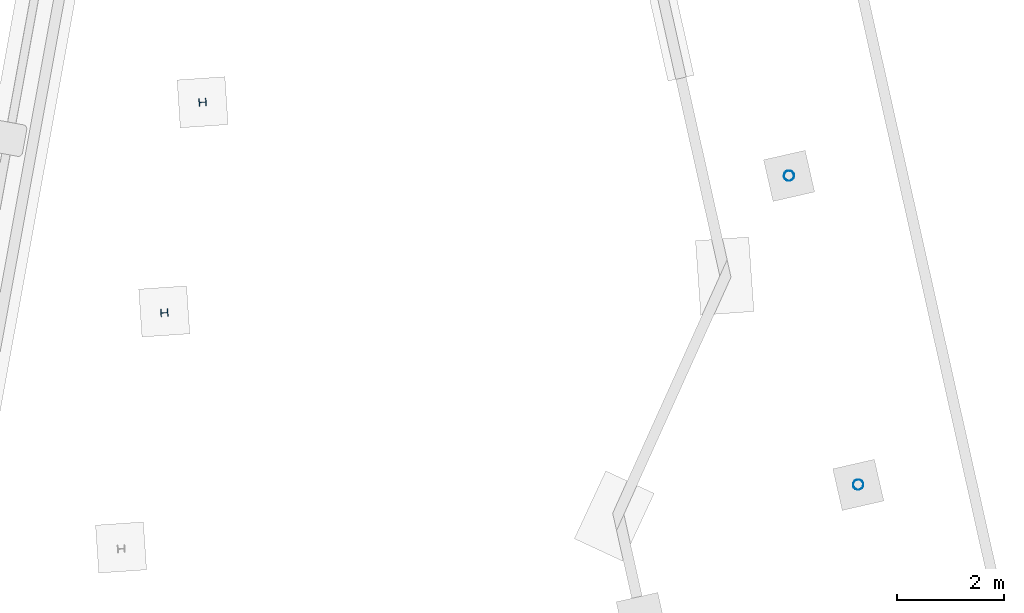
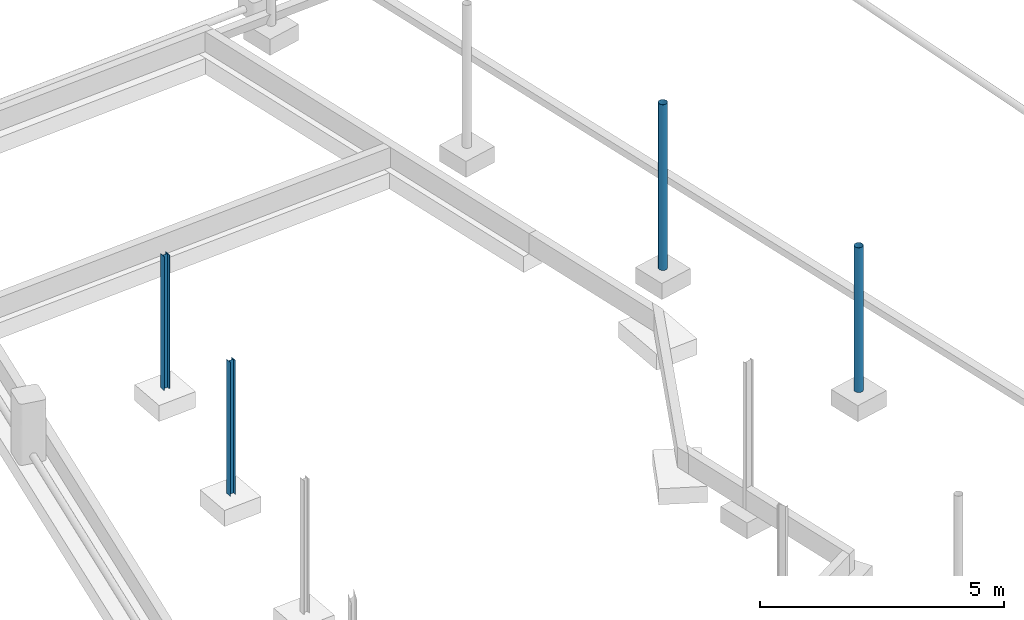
# One storey, part 4 of 17: 4 columns.
"""IFC2X3 building model written with IfcOpenShell, lengths in centimetres."""

import ifcopenshell
import ifcopenshell.guid

model = None  # the IFC model being written
_history = None  # IfcOwnerHistory: only IFC2X3 demands one
_inside = {}  # id of a spatial element -> (the spatial element, [elements in it])
_under = {}  # id of a project, library or spatial element -> (it, [spatial elements below it])
_declared = {}  # id of a project -> (the project, [libraries it declares])
_typed = {}  # id of a type object -> (the type object, [elements of that type])
_made_of = {}  # id of a material, layer set ... -> (it, [elements and type objects made of it])


def new_model(schema):
    """Start an empty IFC model of exactly this schema.

    Asked for "IFC4X3", IfcOpenShell would pick the latest addendum, in which some entities
    have other attributes; the version numbers below select the first issue.
    IFC2X3 requires an IfcOwnerHistory on every rooted entity: one is made here for all.
    """
    global model, _history
    if schema == "IFC4X3":
        model = ifcopenshell.file(schema_version=(4, 3, 0, 0))
    else:
        model = ifcopenshell.file(schema=schema)
    _inside.clear()
    _under.clear()
    _declared.clear()
    _typed.clear()
    _made_of.clear()
    _history = None
    if model.schema == "IFC2X3":
        org = make("IfcOrganization", Name="unknown")
        user = make(
            "IfcPersonAndOrganization",
            ThePerson=make("IfcPerson", FamilyName="unknown"),
            TheOrganization=org,
        )
        app = make(
            "IfcApplication",
            ApplicationDeveloper=org,
            Version="unknown",
            ApplicationFullName="unknown",
            ApplicationIdentifier="unknown",
        )
        _history = make(
            "IfcOwnerHistory",
            OwningUser=user,
            OwningApplication=app,
            ChangeAction="ADDED",
            CreationDate=0,
        )
    return model


def make(cls, **values):
    """One entity of the class cls with the attributes given. An attribute that is None is left unset."""
    return model.create_entity(
        cls, **{name: value for name, value in values.items() if value is not None}
    )


def entity(cls, *values):
    """Any entity or typed value of the class cls, its attributes in the order of the schema. None: left unset."""
    e = model.create_entity(cls)
    for i, value in enumerate(values):
        if value is not None:
            e[i] = value
    return e


def rooted(cls, **values):
    """An entity with a GlobalId (a new one), such as an element, a storey or a relation."""
    return make(cls, GlobalId=ifcopenshell.guid.new(), OwnerHistory=_history, **values)


def si_unit(unit_type, name, prefix=None):
    """IfcSIUnit, for example si_unit("LENGTHUNIT", "METRE", prefix="MILLI")."""
    return make("IfcSIUnit", UnitType=unit_type, Prefix=prefix, Name=name)


def converted_unit(unit_type, name, factor, base, dimensions=None, offset=None):
    """IfcConversionBasedUnit, such as the inch: factor (a typed value) times the base unit."""
    return make(
        "IfcConversionBasedUnit"
        if offset is None
        else "IfcConversionBasedUnitWithOffset",
        ConversionOffset=offset,
        Dimensions=None
        if dimensions is None
        else entity("IfcDimensionalExponents", *dimensions),
        UnitType=unit_type,
        Name=name,
        ConversionFactor=make(
            "IfcMeasureWithUnit", ValueComponent=factor, UnitComponent=base
        ),
    )


def derived_unit(unit_type, elements):
    """IfcDerivedUnit: a product of units, each with its exponent."""
    return make(
        "IfcDerivedUnit",
        Elements=[
            make("IfcDerivedUnitElement", Unit=unit, Exponent=power)
            for unit, power in elements
        ],
        UnitType=unit_type,
    )


def assignment(units):
    """IfcUnitAssignment: the units of a project."""
    return None if units is None else make("IfcUnitAssignment", Units=units)


def point(xyz):
    """IfcCartesianPoint."""
    return None if xyz is None else make("IfcCartesianPoint", Coordinates=xyz)


def direction(xyz):
    """IfcDirection."""
    return None if xyz is None else make("IfcDirection", DirectionRatios=xyz)


def frame(location, z_axis=None, x_axis=None):
    """IfcAxis2Placement3D, a coordinate frame: its origin and axes. An axis left out is left unset."""
    return make(
        "IfcAxis2Placement3D",
        Location=point(location),
        Axis=direction(z_axis),
        RefDirection=direction(x_axis),
    )


def frame_2d(location, x_axis=None):
    """IfcAxis2Placement2D, a coordinate frame in the plane: its origin and x axis."""
    return make(
        "IfcAxis2Placement2D", Location=point(location), RefDirection=direction(x_axis)
    )


def origin():
    """The frame at (0, 0, 0) with its axes left unset."""
    return frame((0.0, 0.0, 0.0))


def place(relative_to, where):
    """IfcLocalPlacement: puts the frame where relative to a parent placement (None: the world)."""
    return make(
        "IfcLocalPlacement", PlacementRelTo=relative_to, RelativePlacement=where
    )


def context(
    kind, dimensions, precision=None, world=None, true_north=None, identifier=None
):
    """IfcGeometricRepresentationContext, for example the 3D "Model" context."""
    return make(
        "IfcGeometricRepresentationContext",
        ContextIdentifier=identifier,
        ContextType=kind,
        CoordinateSpaceDimension=dimensions,
        Precision=precision,
        WorldCoordinateSystem=world,
        TrueNorth=true_north,
    )


def subcontext(parent, identifier, kind, view, scale=None):
    """IfcGeometricRepresentationSubContext, for example "Body" below "Model"."""
    return make(
        "IfcGeometricRepresentationSubContext",
        ContextIdentifier=identifier,
        ContextType=kind,
        ParentContext=parent,
        TargetScale=scale,
        TargetView=view,
    )


def project(units=None, contexts=None):
    """IfcProject with its units and contexts."""
    return rooted(
        "IfcProject",
        Name="project",
        RepresentationContexts=contexts,
        UnitsInContext=assignment(units),
    )


def spatial(cls, under=None, at=None, **own):
    """A site, building, storey or space (cls), placed at a placement, below another one or the project."""
    s = rooted(cls, ObjectPlacement=at, **own)
    if under is not None:
        _under.setdefault(under.id(), (under, []))[1].append(s)
    return s


def polyline(points):
    """IfcPolyline through the points."""
    return make("IfcPolyline", Points=[point(p) for p in points])


def circle_curve(where, radius):
    """IfcCircle in the frame where."""
    return make("IfcCircle", Position=where, Radius=radius)


def parameter(value):
    """IfcParameterValue: where a trimmed curve begins or ends, as a parameter of its basis curve."""
    return model.create_entity("IfcParameterValue", value)


def trimmed(basis, trim1, trim2, sense, master):
    """IfcTrimmedCurve: the piece of a basis curve between two trims."""
    return make(
        "IfcTrimmedCurve",
        BasisCurve=basis,
        Trim1=trim1,
        Trim2=trim2,
        SenseAgreement=sense,
        MasterRepresentation=master,
    )


def segment(curve, same_sense, transition):
    """IfcCompositeCurveSegment."""
    return make(
        "IfcCompositeCurveSegment",
        Transition=transition,
        SameSense=same_sense,
        ParentCurve=curve,
    )


def composite_curve(segments, self_intersect=None):
    """IfcCompositeCurve: segments joined end to end."""
    return make("IfcCompositeCurve", Segments=segments, SelfIntersect=self_intersect)


def profile(cls, at=None, kind="AREA", **sizes):
    """A parametric profile (cls). Its sizes go by their IFC names, for example OverallWidth=200.0."""
    return make(cls, ProfileType=kind, Position=at, **sizes)


def hollow_circle(**sizes):
    """IfcCircleHollowProfileDef."""
    return profile("IfcCircleHollowProfileDef", **sizes)


def outline(outer, holes=None, kind="AREA"):
    """IfcArbitraryClosedProfileDef: a profile drawn as a closed curve; with holes, ...WithVoids."""
    if holes is None:
        return make("IfcArbitraryClosedProfileDef", ProfileType=kind, OuterCurve=outer)
    return make(
        "IfcArbitraryProfileDefWithVoids",
        ProfileType=kind,
        OuterCurve=outer,
        InnerCurves=holes,
    )


def extrude(swept, where, along, depth):
    """IfcExtrudedAreaSolid: the profile swept, set in the frame where, extruded along a direction by depth."""
    return make(
        "IfcExtrudedAreaSolid",
        SweptArea=swept,
        Position=where,
        ExtrudedDirection=direction(along),
        Depth=depth,
    )


def shape(context_of_items, identifier, shape_type, items):
    """IfcShapeRepresentation: the items that make up one representation, for example the "Body"."""
    return make(
        "IfcShapeRepresentation",
        ContextOfItems=context_of_items,
        RepresentationIdentifier=identifier,
        RepresentationType=shape_type,
        Items=items,
    )


def source(mapping_origin, context_of_items, identifier, shape_type, items):
    """IfcRepresentationMap: a shape defined once, which mapped items show again and again."""
    return make(
        "IfcRepresentationMap",
        MappingOrigin=mapping_origin,
        MappedRepresentation=shape(context_of_items, identifier, shape_type, items),
    )


def transform(
    local_origin,
    x_axis=None,
    y_axis=None,
    z_axis=None,
    scale=None,
    scale2=None,
    scale3=None,
    uniform=True,
):
    """IfcCartesianTransformationOperator3D, or its non-uniform kind. x_axis, y_axis, z_axis: its Axis1, 2, 3."""
    if uniform:
        return make(
            "IfcCartesianTransformationOperator3D",
            Axis1=direction(x_axis),
            Axis2=direction(y_axis),
            LocalOrigin=point(local_origin),
            Scale=scale,
            Axis3=direction(z_axis),
        )
    return make(
        "IfcCartesianTransformationOperator3DnonUniform",
        Axis1=direction(x_axis),
        Axis2=direction(y_axis),
        LocalOrigin=point(local_origin),
        Scale=scale,
        Axis3=direction(z_axis),
        Scale2=scale2,
        Scale3=scale3,
    )


def mapped(mapping_source, mapping_target):
    """IfcMappedItem: shows the shape of a source again, moved by a transform."""
    return make(
        "IfcMappedItem", MappingSource=mapping_source, MappingTarget=mapping_target
    )


def material(Name=None, Category=None):
    """IfcMaterial."""
    return make("IfcMaterial", Name=Name, Category=Category)


def made_of(thing, what):
    """Note that an element or type object is made of a material, layer set ...; save() writes the relation."""
    if what is not None:
        _made_of.setdefault(what.id(), (what, []))[1].append(thing)
    return thing


def type_object(cls, material=None, **own):
    """A type object (cls), such as IfcWallType, which elements share."""
    return made_of(rooted(cls, **own), material)


def type_shapes(of_type, sources):
    """Give a type object the sources (RepresentationMaps) that its elements show as mapped items."""
    of_type.RepresentationMaps = sources


def element(
    cls,
    number,
    at=None,
    inside=None,
    cuts=None,
    type_object=None,
    material=None,
    context=None,
    identifier="Body",
    shape_type=None,
    held_by="IfcProductDefinitionShape",
    body=None,
    shapes=None,
    **own,
):
    """One element of the class cls, such as IfcWall. Its Tag is "e" and its number.

    at: its placement. inside: the storey or other place that contains it. cuts: it is an
    opening in that element (IfcRelVoidsElement). A single representation is given by context,
    identifier, shape_type and body (its items); several are given by shapes. held_by: the class
    of the entity that holds the representations. save() writes the other relations.
    """
    e = rooted(cls, Tag="e%d" % number, ObjectPlacement=at, **own)
    if body is not None:
        shapes = [shape(context, identifier, shape_type, body)]
    if shapes is not None:
        e.Representation = make(held_by, Representations=shapes)
    if inside is not None:
        _inside.setdefault(inside.id(), (inside, []))[1].append(e)
    if cuts is not None:
        rooted(
            "IfcRelVoidsElement", RelatingBuildingElement=cuts, RelatedOpeningElement=e
        )
    if type_object is not None:
        _typed.setdefault(type_object.id(), (type_object, []))[1].append(e)
    return made_of(e, material)


def aggregate(whole, parts):
    """IfcRelAggregates: a whole, such as a stair, and the parts it consists of."""
    return rooted("IfcRelAggregates", RelatingObject=whole, RelatedObjects=parts)


def save(model, path):
    """Write the relations noted so far, then the file.

    IfcRelAggregates (storeys below a building ...), IfcRelContainedInSpatialStructure (elements
    in a storey), IfcRelDefinesByType, IfcRelAssociatesMaterial and IfcRelDeclares: one each for
    every whole, place, type object, material and project.
    """
    for whole, parts in _under.values():
        aggregate(whole, parts)
    for where, things in _inside.values():
        rooted(
            "IfcRelContainedInSpatialStructure",
            RelatedElements=things,
            RelatingStructure=where,
        )
    for kind, things in _typed.values():
        rooted("IfcRelDefinesByType", RelatedObjects=things, RelatingType=kind)
    for what, things in _made_of.values():
        rooted("IfcRelAssociatesMaterial", RelatedObjects=things, RelatingMaterial=what)
    for by, libraries in _declared.values():
        rooted("IfcRelDeclares", RelatingContext=by, RelatedDefinitions=libraries)
    model.write(path)


model = new_model("IFC2X3")

# Units and contexts
model_context = context("Model", 3, precision=0.001, world=origin(), true_north=direction((6.12303176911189e-17, 1.0)))
body_context = subcontext(model_context, "Body", "Model", "MODEL_VIEW")
ifc_project = project(units=[si_unit("LENGTHUNIT", "METRE", prefix="CENTI"), si_unit("AREAUNIT", "SQUARE_METRE"), si_unit("VOLUMEUNIT", "CUBIC_METRE"), converted_unit("PLANEANGLEUNIT", "DEGREE", entity("IfcRatioMeasure", 0.0174532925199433), si_unit("PLANEANGLEUNIT", "RADIAN"), dimensions=[0, 0, 0, 0, 0, 0, 0]), si_unit("MASSUNIT", "GRAM", prefix="KILO"), derived_unit("MASSDENSITYUNIT", [(si_unit("MASSUNIT", "GRAM", prefix="KILO"), 1), (si_unit("LENGTHUNIT", "METRE"), -3)]), si_unit("TIMEUNIT", "SECOND"), si_unit("FREQUENCYUNIT", "HERTZ"), si_unit("THERMODYNAMICTEMPERATUREUNIT", "DEGREE_CELSIUS"), derived_unit("THERMALTRANSMITTANCEUNIT", [(si_unit("MASSUNIT", "GRAM", prefix="KILO"), 1), (si_unit("THERMODYNAMICTEMPERATUREUNIT", "KELVIN"), -1), (si_unit("TIMEUNIT", "SECOND"), -3)]), derived_unit("VOLUMETRICFLOWRATEUNIT", [(si_unit("LENGTHUNIT", "METRE"), 3), (si_unit("TIMEUNIT", "SECOND"), -1)]), si_unit("ELECTRICCURRENTUNIT", "AMPERE"), si_unit("ELECTRICVOLTAGEUNIT", "VOLT"), si_unit("POWERUNIT", "WATT"), si_unit("FORCEUNIT", "NEWTON", prefix="KILO"), si_unit("ILLUMINANCEUNIT", "LUX"), si_unit("LUMINOUSFLUXUNIT", "LUMEN"), si_unit("LUMINOUSINTENSITYUNIT", "CANDELA"), derived_unit("USERDEFINED", [(si_unit("MASSUNIT", "GRAM", prefix="KILO"), -1), (si_unit("LENGTHUNIT", "METRE"), -2), (si_unit("TIMEUNIT", "SECOND"), 3), (si_unit("LUMINOUSFLUXUNIT", "LUMEN"), 1)]), derived_unit("LINEARVELOCITYUNIT", [(si_unit("LENGTHUNIT", "METRE"), 1), (si_unit("TIMEUNIT", "SECOND"), -1)]), si_unit("PRESSUREUNIT", "PASCAL"), derived_unit("USERDEFINED", [(si_unit("LENGTHUNIT", "METRE"), -2), (si_unit("MASSUNIT", "GRAM", prefix="KILO"), 1), (si_unit("TIMEUNIT", "SECOND"), -2)])], contexts=[model_context])

# Site, building, storey
site_placement = place(None, frame((2611.71187422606, 13650.4058644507, 0.0), z_axis=(0.0, 0.0, 1.0), x_axis=(0.0673222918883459, -0.997731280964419, 0.0)))
site = spatial("IfcSite", under=ifc_project, at=site_placement, Name="Surface", CompositionType="ELEMENT")
building_placement = place(site_placement, origin())
building = spatial("IfcBuilding", under=site, at=building_placement, CompositionType="ELEMENT")
storey_placement = place(building_placement, frame((0.0, 0.0, 86950.0)))
storey = spatial("IfcBuildingStorey", under=building, at=storey_placement, Name="-1 Soubassement", CompositionType="ELEMENT", Elevation=86950.0)

# Columns
ifc_material = material(Name="Acier structurel - S235")
column_type_1 = type_object("IfcColumnType", Name="Poteau rond 193.7x4 mm", PredefinedType="COLUMN")
shared_shape_1 = source(origin(), body_context, "Body", "SweptSolid", [
    extrude(hollow_circle(Radius=9.685, WallThickness=0.399999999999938, at=frame_2d((-7.14015928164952e-16, -4.16500599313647e-14), x_axis=(1.0, 0.0))), frame((0.0, 0.0, 86950.0)), (0.0, 0.0, 1.0), 414.552774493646),
])
type_shapes(column_type_1, [shared_shape_1])
column_1_placement = place(storey_placement, frame((3128.77222046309, 1356.06335931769, -86950.0), z_axis=(0.0, 0.0, 1.0), x_axis=(0.988328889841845, 0.152335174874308, 0.0)))
element("IfcColumn", 1, at=column_1_placement, inside=storey, type_object=column_type_1, material=ifc_material, Name="Poteau RO (EN 10219-2):Poteau rond 193.7x4 mm", ObjectType="Poteau RO (EN 10219-2):Poteau rond 193.7x4 mm", context=body_context, shape_type="MappedRepresentation", body=[
    mapped(shared_shape_1, transform((0.0, 0.0, 0.0), scale=1.0)),
])
column_type_2 = type_object("IfcColumnType", Name="Poteau rond 193.7x4 mm", PredefinedType="COLUMN")
shared_shape_2 = source(origin(), body_context, "Body", "SweptSolid", [
    extrude(hollow_circle(Radius=9.685, WallThickness=0.399999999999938, at=frame_2d((-7.14015928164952e-16, -4.16500599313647e-14), x_axis=(1.0, 0.0))), frame((0.0, 0.0, 86950.0)), (0.0, 0.0, 1.0), 362.075673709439),
])
type_shapes(column_type_2, [shared_shape_2])
column_2_placement = place(storey_placement, frame((3714.62584628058, 1446.36337529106, -86950.0), z_axis=(0.0, 0.0, 1.0), x_axis=(0.988328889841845, 0.152335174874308, 0.0)))
element("IfcColumn", 2, at=column_2_placement, inside=storey, type_object=column_type_2, material=ifc_material, Name="Poteau RO (EN 10219-2):Poteau rond 193.7x4 mm", ObjectType="Poteau RO (EN 10219-2):Poteau rond 193.7x4 mm", context=body_context, shape_type="MappedRepresentation", body=[
    mapped(shared_shape_2, transform((0.0, 0.0, 0.0), scale=1.0)),
])
column_type_3 = type_object("IfcColumnType", Name="HE140A", PredefinedType="COLUMN")
shared_shape_3 = source(origin(), body_context, "Body", "SweptSolid", [
    extrude(outline(composite_curve([segment(polyline([(5.8, -7.0), (6.65, -7.0)]), True, "CONTINUOUS"), segment(polyline([(6.65, -7.0), (6.65, 7.0)]), True, "CONTINUOUS"), segment(polyline([(6.65, 7.0), (5.8, 7.0)]), True, "CONTINUOUS"), segment(polyline([(5.8, 7.0), (5.8, 1.475)]), True, "CONTINUOUS"), segment(trimmed(circle_curve(frame_2d((4.6, 1.475), x_axis=(1.0, 0.0)), 1.2), [parameter(270.0)], [parameter(0.0)], True, "PARAMETER"), False, "CONTINUOUS"), segment(polyline([(4.6, 0.275000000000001), (-4.6, 0.275000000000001)]), True, "CONTINUOUS"), segment(trimmed(circle_curve(frame_2d((-4.6, 1.475), x_axis=(0.0, -1.0)), 1.2), [parameter(270.0)], [parameter(0.0)], True, "PARAMETER"), False, "CONTINUOUS"), segment(polyline([(-5.8, 1.475), (-5.8, 7.0)]), True, "CONTINUOUS"), segment(polyline([(-5.8, 7.0), (-6.65, 7.0)]), True, "CONTINUOUS"), segment(polyline([(-6.65, 7.0), (-6.65, -7.0)]), True, "CONTINUOUS"), segment(polyline([(-6.65, -7.0), (-5.8, -7.0)]), True, "CONTINUOUS"), segment(polyline([(-5.8, -7.0), (-5.8, -1.475)]), True, "CONTINUOUS"), segment(trimmed(circle_curve(frame_2d((-4.6, -1.475), x_axis=(-1.0, 0.0)), 1.2), [parameter(269.999999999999)], [parameter(0.0)], True, "PARAMETER"), False, "CONTINUOUS"), segment(polyline([(-4.6, -0.274999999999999), (4.6, -0.274999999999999)]), True, "CONTINUOUS"), segment(trimmed(circle_curve(frame_2d((4.6, -1.475), x_axis=(0.0, 1.0)), 1.2), [parameter(270.0)], [parameter(0.0)], True, "PARAMETER"), False, "CONTINUOUS"), segment(polyline([(5.8, -1.475), (5.8, -7.0)]), True, "CONTINUOUS")], self_intersect=False)), frame((0.0, 0.0, 86950.0), z_axis=(0.0, 0.0, 1.0), x_axis=(0.0, -1.0, 0.0)), (0.0, 0.0, 1.0), 334.99999999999),
])
type_shapes(column_type_3, [shared_shape_3])
for number, where in (
    (3, (2917.56644128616, 269.678297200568, -86950.0)),
    (4, (3306.01448852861, 171.748012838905, -86950.0)),
):
    element("IfcColumn", number, at=place(storey_placement, frame(where)), inside=storey, type_object=column_type_3, material=ifc_material, Name="H-Poutrelles-Poteau:HE140A", ObjectType="H-Poutrelles-Poteau:HE140A", context=body_context, shape_type="MappedRepresentation", body=[
        mapped(shared_shape_3, transform((0.0, 0.0, 0.0), scale=1.0)),
    ])

save(model, "model.ifc")
